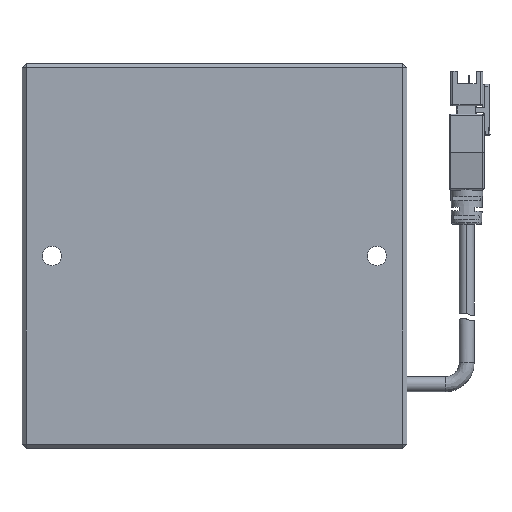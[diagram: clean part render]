
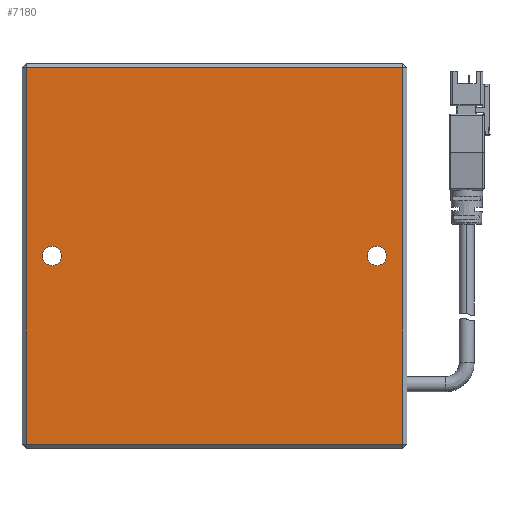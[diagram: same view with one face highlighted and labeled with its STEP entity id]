
A CAD part, top view. The second image highlights one B-rep face of the part: STEP entity #7180.
In plain terms, the highlighted planar face has unit normal (0, 0, 1).
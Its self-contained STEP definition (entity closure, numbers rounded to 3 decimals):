
#28 = CARTESIAN_POINT ( 'NONE',  ( -44., -45., 10.5 ) ) ;
#34 = AXIS2_PLACEMENT_3D ( 'NONE', #608, #7700, #6467 ) ;
#102 = AXIS2_PLACEMENT_3D ( 'NONE', #3626, #3654, #352 ) ;
#352 = DIRECTION ( 'NONE',  ( 1., 0., 0. ) ) ;
#477 = ORIENTED_EDGE ( 'NONE', *, *, #1951, .T. ) ;
#589 = DIRECTION ( 'NONE',  ( 0., 0., -1. ) ) ;
#608 = CARTESIAN_POINT ( 'NONE',  ( 38., 0., 10.5 ) ) ;
#620 = DIRECTION ( 'NONE',  ( 0., 0., -1. ) ) ;
#777 = LINE ( 'NONE', #28, #6839 ) ;
#783 = CARTESIAN_POINT ( 'NONE',  ( 38., 0., 10.5 ) ) ;
#915 = CARTESIAN_POINT ( 'NONE',  ( 45., -44., 10.5 ) ) ;
#1114 = CARTESIAN_POINT ( 'NONE',  ( 44., -44., 10.5 ) ) ;
#1116 = CARTESIAN_POINT ( 'NONE',  ( 35.75, 0., 10.5 ) ) ;
#1138 = EDGE_CURVE ( 'NONE', #3512, #6709, #777, .T. ) ;
#1211 = VECTOR ( 'NONE', #3802, 1000. ) ;
#1293 = ORIENTED_EDGE ( 'NONE', *, *, #7891, .T. ) ;
#1421 = EDGE_LOOP ( 'NONE', ( #3589, #2083, #477, #1293 ) ) ;
#1456 = VERTEX_POINT ( 'NONE', #2702 ) ;
#1840 = AXIS2_PLACEMENT_3D ( 'NONE', #7016, #620, #7660 ) ;
#1859 = DIRECTION ( 'NONE',  ( 0., 0., -1. ) ) ;
#1938 = DIRECTION ( 'NONE',  ( -1., 0., 0. ) ) ;
#1951 = EDGE_CURVE ( 'NONE', #6709, #4949, #2045, .T. ) ;
#2045 = LINE ( 'NONE', #915, #6052 ) ;
#2083 = ORIENTED_EDGE ( 'NONE', *, *, #1138, .T. ) ;
#2265 = AXIS2_PLACEMENT_3D ( 'NONE', #783, #1859, #1938 ) ;
#2436 = CIRCLE ( 'NONE', #2265, 2.25 ) ;
#2702 = CARTESIAN_POINT ( 'NONE',  ( 40.25, 0., 10.5 ) ) ;
#2715 = CARTESIAN_POINT ( 'NONE',  ( 44., 44., 10.5 ) ) ;
#2854 = DIRECTION ( 'NONE',  ( 1., 0., 0. ) ) ;
#3061 = VERTEX_POINT ( 'NONE', #7054 ) ;
#3106 = CARTESIAN_POINT ( 'NONE',  ( -40.25, 0., 10.5 ) ) ;
#3391 = AXIS2_PLACEMENT_3D ( 'NONE', #4454, #589, #7039 ) ;
#3512 = VERTEX_POINT ( 'NONE', #3597 ) ;
#3589 = ORIENTED_EDGE ( 'NONE', *, *, #8008, .T. ) ;
#3597 = CARTESIAN_POINT ( 'NONE',  ( -44., 44., 10.5 ) ) ;
#3626 = CARTESIAN_POINT ( 'NONE',  ( 0., 0., 10.5 ) ) ;
#3654 = DIRECTION ( 'NONE',  ( 0., 0., 1. ) ) ;
#3734 = EDGE_CURVE ( 'NONE', #8226, #1456, #2436, .T. ) ;
#3757 = CARTESIAN_POINT ( 'NONE',  ( 44., 45., 10.5 ) ) ;
#3802 = DIRECTION ( 'NONE',  ( 0., 1., 0. ) ) ;
#3934 = EDGE_CURVE ( 'NONE', #4920, #3061, #6311, .T. ) ;
#4039 = VECTOR ( 'NONE', #4173, 1000. ) ;
#4089 = VERTEX_POINT ( 'NONE', #2715 ) ;
#4173 = DIRECTION ( 'NONE',  ( -1., 0., 0. ) ) ;
#4200 = FACE_BOUND ( 'NONE', #7096, .T. ) ;
#4205 = CIRCLE ( 'NONE', #34, 2.25 ) ;
#4313 = EDGE_CURVE ( 'NONE', #1456, #8226, #4205, .T. ) ;
#4454 = CARTESIAN_POINT ( 'NONE',  ( -38., 0., 10.5 ) ) ;
#4542 = DIRECTION ( 'NONE',  ( 0., -1., 0. ) ) ;
#4636 = ORIENTED_EDGE ( 'NONE', *, *, #4313, .T. ) ;
#4663 = EDGE_LOOP ( 'NONE', ( #7811, #4636 ) ) ;
#4750 = LINE ( 'NONE', #3757, #1211 ) ;
#4762 = CARTESIAN_POINT ( 'NONE',  ( -45., 44., 10.5 ) ) ;
#4769 = ORIENTED_EDGE ( 'NONE', *, *, #3934, .T. ) ;
#4920 = VERTEX_POINT ( 'NONE', #3106 ) ;
#4949 = VERTEX_POINT ( 'NONE', #1114 ) ;
#5298 = FACE_BOUND ( 'NONE', #4663, .T. ) ;
#5571 = CIRCLE ( 'NONE', #1840, 2.25 ) ;
#5887 = FACE_OUTER_BOUND ( 'NONE', #1421, .T. ) ;
#6052 = VECTOR ( 'NONE', #2854, 1000. ) ;
#6311 = CIRCLE ( 'NONE', #3391, 2.25 ) ;
#6467 = DIRECTION ( 'NONE',  ( -1., 0., 0. ) ) ;
#6709 = VERTEX_POINT ( 'NONE', #8155 ) ;
#6839 = VECTOR ( 'NONE', #4542, 1000. ) ;
#7016 = CARTESIAN_POINT ( 'NONE',  ( -38., 0., 10.5 ) ) ;
#7039 = DIRECTION ( 'NONE',  ( -1., 0., 0. ) ) ;
#7054 = CARTESIAN_POINT ( 'NONE',  ( -35.75, 0., 10.5 ) ) ;
#7096 = EDGE_LOOP ( 'NONE', ( #4769, #7153 ) ) ;
#7153 = ORIENTED_EDGE ( 'NONE', *, *, #7345, .T. ) ;
#7180 = ADVANCED_FACE ( 'NONE', ( #5887, #4200, #5298 ), #8062, .T. ) ;
#7345 = EDGE_CURVE ( 'NONE', #3061, #4920, #5571, .T. ) ;
#7457 = LINE ( 'NONE', #4762, #4039 ) ;
#7660 = DIRECTION ( 'NONE',  ( -1., 0., 0. ) ) ;
#7700 = DIRECTION ( 'NONE',  ( 0., 0., -1. ) ) ;
#7811 = ORIENTED_EDGE ( 'NONE', *, *, #3734, .T. ) ;
#7891 = EDGE_CURVE ( 'NONE', #4949, #4089, #4750, .T. ) ;
#8008 = EDGE_CURVE ( 'NONE', #4089, #3512, #7457, .T. ) ;
#8062 = PLANE ( 'NONE',  #102 ) ;
#8155 = CARTESIAN_POINT ( 'NONE',  ( -44., -44., 10.5 ) ) ;
#8226 = VERTEX_POINT ( 'NONE', #1116 ) ;
